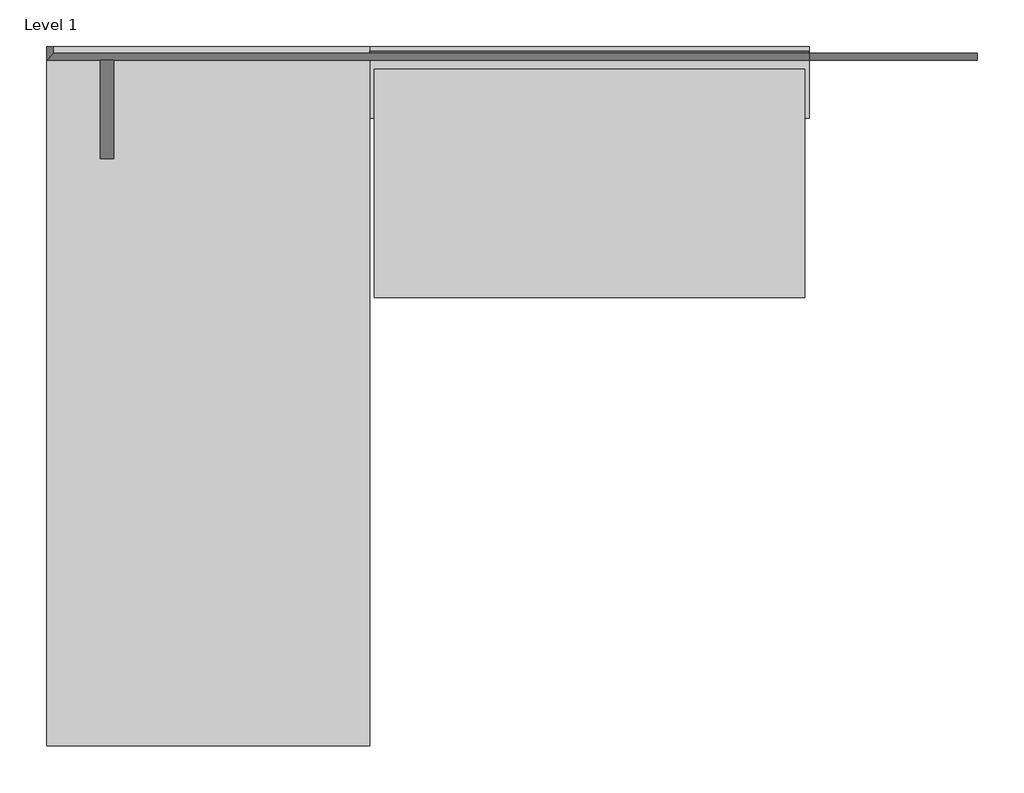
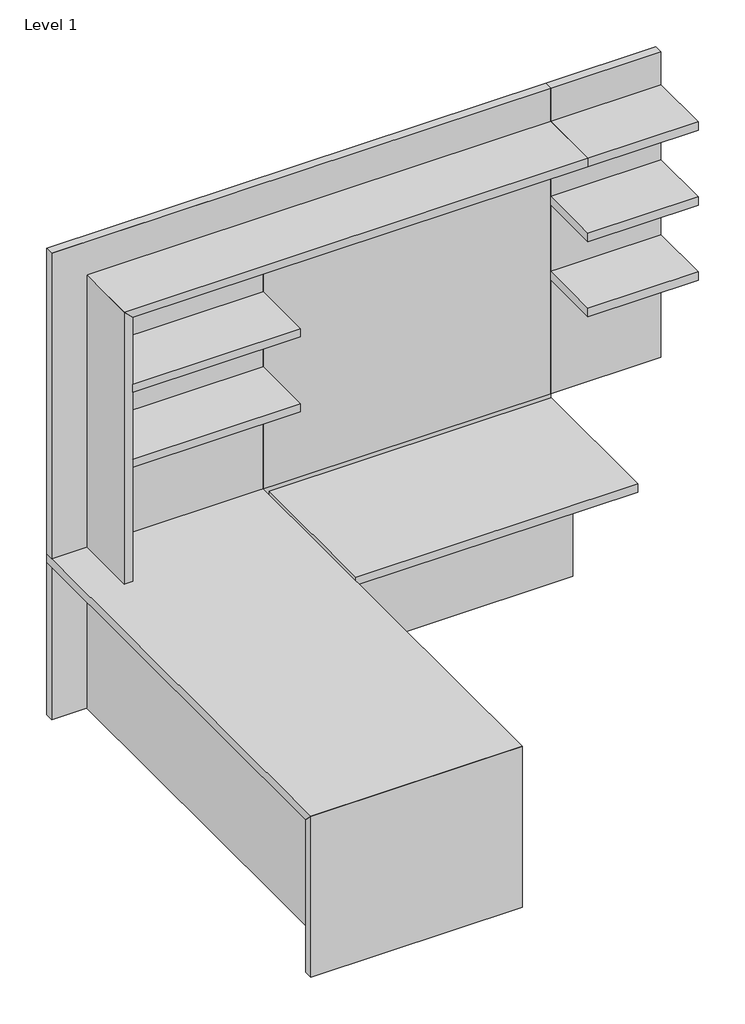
# One storey, incomplete: 11 proxies.
"""IFC4 building model written with IfcOpenShell, lengths in millimetres."""

from ifc_helpers import new_model, si_unit, origin, place, context, project, spatial, transform, mapped, element, save
from components import generic_models_6056f1e5, generic_models_c7d0343b, generic_models_a1b3daed, generic_models_ddd470e9, generic_models_b5e62c71, generic_models_f1a44bce, generic_models_d897bd4b, generic_models_1c28c470, generic_models_a189b151, generic_models_b7273189, generic_models_7ffa99d4

model = new_model("IFC4")

# Units and contexts
model_context = context("Model", 3, world=origin())
ifc_project = project(units=[si_unit("LENGTHUNIT", "METRE", prefix="MILLI")], contexts=[model_context])

# Site, building, storey
site = spatial("IfcSite", under=ifc_project)
building = spatial("IfcBuilding", under=site)
storey = spatial("IfcBuildingStorey", under=building, Name="Level 1", Elevation=0.0)

# Proxies
placement = place(None, origin())
generic_models_shape = generic_models_6056f1e5(model_context)
element("IfcBuildingElementProxy", 1, Name="FOUNDATION^PO 2_WALL HUNG 3 SHELVES-PARTS SOLID", ObjectType="FOUNDATION^PO 2_WALL HUNG 3 SHELVES-PARTS SOLID", at=placement, inside=storey, context=model_context, shape_type="MappedRepresentation", body=[
    mapped(generic_models_shape, transform((0.0, -38.1, 736.6), x_axis=(1.0, 0.0, 0.0), y_axis=(0.0, 0.0, 1.0), z_axis=(0.0, -1.0, 0.0))),
])
generic_models_2_shape = generic_models_c7d0343b(model_context)
element("IfcBuildingElementProxy", 2, Name="FOUNDATION^PO2_GLASS TACK-PARTS SOLID", ObjectType="FOUNDATION^PO2_GLASS TACK-PARTS SOLID", at=placement, inside=storey, context=model_context, shape_type="MappedRepresentation", body=[
    mapped(generic_models_2_shape, transform((-1243.80625, -12.7, 699.29375), x_axis=(1.0, 0.0, 0.0), y_axis=(0.0, 0.0, 1.0), z_axis=(0.0, -1.0, 0.0))),
])
generic_models_3_shape = generic_models_a1b3daed(model_context)
element("IfcBuildingElementProxy", 3, Name="FOUNDATION^PO2_WIRE WALL-WORKSURFACE", ObjectType="FOUNDATION^PO2_WIRE WALL-WORKSURFACE", at=placement, inside=storey, context=model_context, shape_type="MappedRepresentation", body=[
    mapped(generic_models_3_shape, transform((-1231.9, -711.2, 698.5), x_axis=(1.0, 0.0, 0.0), y_axis=(0.0, 0.0, 1.0), z_axis=(0.0, -1.0, 0.0))),
])
generic_models_4_shape = generic_models_ddd470e9(model_context)
element("IfcBuildingElementProxy", 4, Name="SS LIFT ANGLE_18_RT_OMT_LINAK (NEW)", ObjectType="SS LIFT ANGLE_18_RT_OMT_LINAK (NEW)", at=placement, inside=storey, context=model_context, shape_type="MappedRepresentation", body=[
    mapped(generic_models_4_shape, transform((-144.65, -105.8227, 698.5), x_axis=(0.0, -1.0, 0.0), y_axis=(0.0, 0.0, 1.0), z_axis=(-1.0, 0.0, 0.0))),
])
generic_models_5_shape = generic_models_b5e62c71(model_context)
element("IfcBuildingElementProxy", 5, Name="FOUNDATION^PO2_WIRE WALL-PARTS SOLID", ObjectType="FOUNDATION^PO2_WIRE WALL-PARTS SOLID", at=placement, inside=storey, context=model_context, shape_type="MappedRepresentation", body=[
    mapped(generic_models_5_shape, transform((-1244.6, -203.2, 565.15), x_axis=(1.0, 0.0, 0.0), y_axis=(0.0, 0.0, 1.0), z_axis=(0.0, -1.0, 0.0))),
])
generic_models_6_shape = generic_models_f1a44bce(model_context)
element("IfcBuildingElementProxy", 6, Name="FOUNDATION^PO 2_LIFT TOP-BACK KEEL", ObjectType="FOUNDATION^PO 2_LIFT TOP-BACK KEEL", at=placement, inside=storey, context=model_context, shape_type="MappedRepresentation", body=[
    mapped(generic_models_6_shape, transform((-1244.6, 0.0, 584.2), x_axis=(1.0, 0.0, 0.0), y_axis=(0.0, 0.0, 1.0), z_axis=(0.0, -1.0, 0.0))),
])
generic_models_7_shape = generic_models_d897bd4b(model_context)
element("IfcBuildingElementProxy", 7, Name="FOUNDATION^PO 2_LIFT TOP-WIRE TROUGH", ObjectType="FOUNDATION^PO 2_LIFT TOP-WIRE TROUGH", at=placement, inside=storey, context=model_context, shape_type="MappedRepresentation", body=[
    mapped(generic_models_7_shape, transform((-984.9625, -106.13258, 698.5), x_axis=(1.0, 0.0, 0.0), y_axis=(0.0, 0.0, 1.0), z_axis=(0.0, -1.0, 0.0))),
])
generic_models_8_shape = generic_models_1c28c470(model_context)
element("IfcBuildingElementProxy", 8, Name="FOUNDATION^PO 2_WALL HUNG WORK WALL SHELVES-PARTS SOLID", ObjectType="FOUNDATION^PO 2_WALL HUNG WORK WALL SHELVES-PARTS SOLID", at=placement, inside=storey, context=model_context, shape_type="MappedRepresentation", body=[
    mapped(generic_models_8_shape, transform((-2006.6, -38.1, 736.6), x_axis=(1.0, 0.0, 0.0), y_axis=(0.0, 0.0, 1.0), z_axis=(0.0, -1.0, 0.0))),
])
generic_models_9_shape = generic_models_a189b151(model_context)
element("IfcBuildingElementProxy", 9, Name="FOUNDATION^PO2_DESK SHELL-PARTS SOLID", ObjectType="FOUNDATION^PO2_DESK SHELL-PARTS SOLID", at=placement, inside=storey, context=model_context, shape_type="MappedRepresentation", body=[
    mapped(generic_models_9_shape, transform((-1244.6, 0.0, 0.0), x_axis=(0.0, -1.0, 0.0), y_axis=(0.0, 0.0, 1.0), z_axis=(-1.0, 0.0, 0.0))),
])
generic_models_10_shape = generic_models_b7273189(model_context)
element("IfcBuildingElementProxy", 10, Name="SS LIFT ANGLE_18_LT_OMT_LINAK (NEW)", ObjectType="SS LIFT ANGLE_18_LT_OMT_LINAK (NEW)", at=placement, inside=storey, context=model_context, shape_type="MappedRepresentation", body=[
    mapped(generic_models_10_shape, transform((-1099.95, -105.8227, 698.5), x_axis=(0.0, -1.0, 0.0), y_axis=(0.0, 0.0, 1.0), z_axis=(-1.0, 0.0, 0.0))),
])
generic_models_11_shape = generic_models_7ffa99d4(model_context)
element("IfcBuildingElementProxy", 11, Name="FOUNDATION^PO 2_WALL HUNG WORK WALL-PARTS SOLID", ObjectType="FOUNDATION^PO 2_WALL HUNG WORK WALL-PARTS SOLID", at=placement, inside=storey, context=model_context, shape_type="MappedRepresentation", body=[
    mapped(generic_models_11_shape, transform((-2159.0, -38.1, 736.6), x_axis=(1.0, 0.0, 0.0), y_axis=(0.0, 0.0, 1.0), z_axis=(0.0, -1.0, 0.0))),
])

save(model, "model.ifc")
